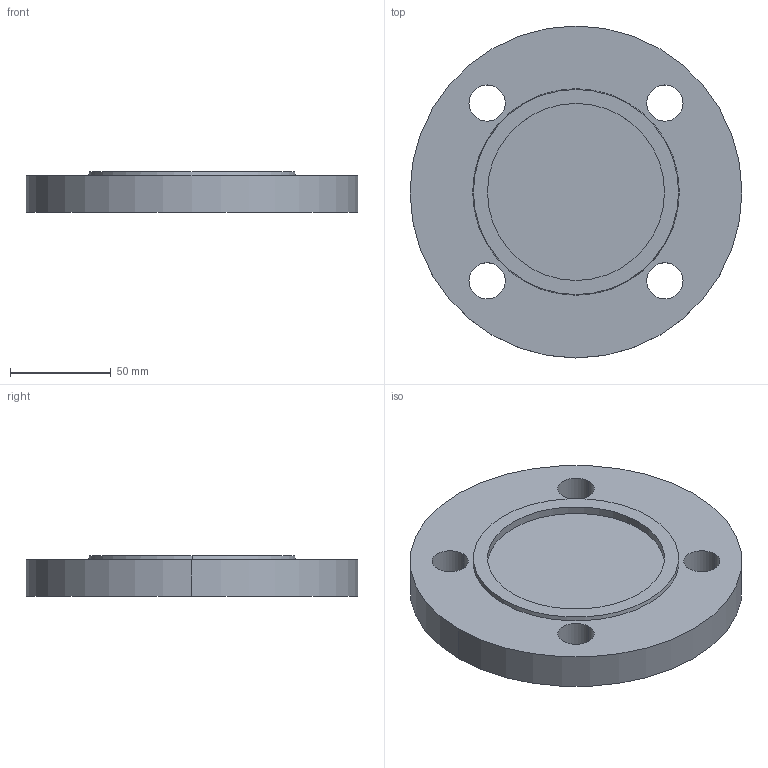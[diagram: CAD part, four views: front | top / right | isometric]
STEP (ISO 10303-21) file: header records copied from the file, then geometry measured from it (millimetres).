
FILE_DESCRIPTION (( 'STEP AP214' ), '1' );
FILE_NAME ('PN40 DN50 Type 05 - Type F Face.STEP', '2018-12-30T04:40:14', ( '' ), ( '' ), 'SwSTEP 2.0', 'SolidWorks 2019', '' );
FILE_SCHEMA (( 'AUTOMOTIVE_DESIGN' ));
Length unit declared in the file: millimetre
Products named in the file (1): PN40 DN50 Type 05 - Type F Face
Bounding box: 165 x 165 x 20 mm (x, y, z)
Volume: 358689.9 mm3; surface area: 55776.7 mm2
Topology: 1 solids, 1 shells, 18 faces, 42 edges, 28 vertices
Faces by surface type: cylinder 12, plane 4, cone 2
Entity records: 584 total; most frequent: DIRECTION 108, CARTESIAN_POINT 89, ORIENTED_EDGE 84, AXIS2_PLACEMENT_3D 47, EDGE_CURVE 42, EDGE_LOOP 28, CIRCLE 28, VERTEX_POINT 28
